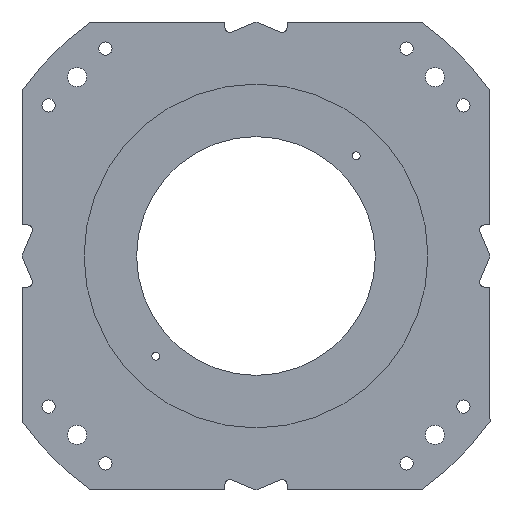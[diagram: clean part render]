
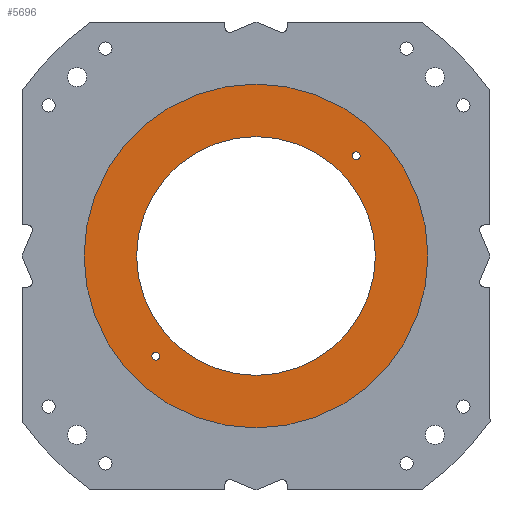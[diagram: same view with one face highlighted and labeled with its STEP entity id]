
A CAD part, front view. The second image highlights one B-rep face of the part: STEP entity #5696.
In plain terms, the highlighted planar face has unit normal (0, -1, 0).
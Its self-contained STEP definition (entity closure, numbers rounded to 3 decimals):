
#34 = EDGE_CURVE ( 'NONE', #6079, #4314, #223, .T. ) ;
#223 = CIRCLE ( 'NONE', #2334, 4. ) ;
#693 = ORIENTED_EDGE ( 'NONE', *, *, #849, .F. ) ;
#743 = CARTESIAN_POINT ( 'NONE',  ( 0., 163., 0. ) ) ;
#849 = EDGE_CURVE ( 'NONE', #4731, #6956, #1227, .T. ) ;
#977 = DIRECTION ( 'NONE',  ( 0., -1., 0. ) ) ;
#1025 = CIRCLE ( 'NONE', #7268, 180. ) ;
#1135 = CIRCLE ( 'NONE', #5511, 125. ) ;
#1191 = DIRECTION ( 'NONE',  ( 0., 1., 0. ) ) ;
#1227 = CIRCLE ( 'NONE', #7729, 180. ) ;
#1338 = DIRECTION ( 'NONE',  ( 0., -1., 0. ) ) ;
#1629 = DIRECTION ( 'NONE',  ( 0., -1., 0. ) ) ;
#1777 = CARTESIAN_POINT ( 'NONE',  ( 0., 163., -125. ) ) ;
#1900 = ORIENTED_EDGE ( 'NONE', *, *, #7073, .F. ) ;
#1974 = ORIENTED_EDGE ( 'NONE', *, *, #3856, .F. ) ;
#2037 = DIRECTION ( 'NONE',  ( 0., 0., 1. ) ) ;
#2156 = CIRCLE ( 'NONE', #5406, 4. ) ;
#2162 = ORIENTED_EDGE ( 'NONE', *, *, #6383, .F. ) ;
#2167 = CARTESIAN_POINT ( 'NONE',  ( 105., 163., 101. ) ) ;
#2334 = AXIS2_PLACEMENT_3D ( 'NONE', #6988, #1629, #6876 ) ;
#2400 = CARTESIAN_POINT ( 'NONE',  ( 0., 163., 0. ) ) ;
#2428 = VERTEX_POINT ( 'NONE', #6703 ) ;
#2434 = CARTESIAN_POINT ( 'NONE',  ( 0., 163., -180. ) ) ;
#2530 = EDGE_LOOP ( 'NONE', ( #5887, #693 ) ) ;
#2587 = CARTESIAN_POINT ( 'NONE',  ( -105., 163., -101. ) ) ;
#2644 = AXIS2_PLACEMENT_3D ( 'NONE', #7741, #5202, #6995 ) ;
#2878 = CARTESIAN_POINT ( 'NONE',  ( 0., 163., 180. ) ) ;
#2932 = FACE_BOUND ( 'NONE', #3500, .T. ) ;
#3143 = EDGE_CURVE ( 'NONE', #3182, #2428, #7264, .T. ) ;
#3182 = VERTEX_POINT ( 'NONE', #1777 ) ;
#3500 = EDGE_LOOP ( 'NONE', ( #1900, #5767 ) ) ;
#3503 = AXIS2_PLACEMENT_3D ( 'NONE', #7437, #5667, #5084 ) ;
#3586 = FACE_OUTER_BOUND ( 'NONE', #2530, .T. ) ;
#3596 = DIRECTION ( 'NONE',  ( 0., 0., 1. ) ) ;
#3725 = CARTESIAN_POINT ( 'NONE',  ( 0., 163., 0. ) ) ;
#3749 = EDGE_CURVE ( 'NONE', #6956, #4731, #1025, .T. ) ;
#3856 = EDGE_CURVE ( 'NONE', #5435, #4011, #2156, .T. ) ;
#4011 = VERTEX_POINT ( 'NONE', #2167 ) ;
#4101 = CARTESIAN_POINT ( 'NONE',  ( -105., 163., -109. ) ) ;
#4143 = PLANE ( 'NONE',  #5331 ) ;
#4314 = VERTEX_POINT ( 'NONE', #2587 ) ;
#4339 = ORIENTED_EDGE ( 'NONE', *, *, #34, .F. ) ;
#4439 = CARTESIAN_POINT ( 'NONE',  ( 105., 163., 105. ) ) ;
#4692 = FACE_BOUND ( 'NONE', #7300, .T. ) ;
#4731 = VERTEX_POINT ( 'NONE', #2434 ) ;
#4781 = ORIENTED_EDGE ( 'NONE', *, *, #6967, .F. ) ;
#4952 = DIRECTION ( 'NONE',  ( 0., 0., -1. ) ) ;
#5084 = DIRECTION ( 'NONE',  ( 0., 0., -1. ) ) ;
#5124 = CARTESIAN_POINT ( 'NONE',  ( -105., 163., -105. ) ) ;
#5202 = DIRECTION ( 'NONE',  ( 0., -1., 0. ) ) ;
#5291 = DIRECTION ( 'NONE',  ( 0., 0., -1. ) ) ;
#5331 = AXIS2_PLACEMENT_3D ( 'NONE', #5833, #6532, #5291 ) ;
#5406 = AXIS2_PLACEMENT_3D ( 'NONE', #4439, #1338, #6789 ) ;
#5435 = VERTEX_POINT ( 'NONE', #6005 ) ;
#5511 = AXIS2_PLACEMENT_3D ( 'NONE', #3725, #7297, #4952 ) ;
#5667 = DIRECTION ( 'NONE',  ( 0., -1., 0. ) ) ;
#5696 = ADVANCED_FACE ( 'NONE', ( #4692, #6417, #2932, #3586 ), #4143, .T. ) ;
#5767 = ORIENTED_EDGE ( 'NONE', *, *, #3143, .F. ) ;
#5833 = CARTESIAN_POINT ( 'NONE',  ( 0., 163., 0. ) ) ;
#5887 = ORIENTED_EDGE ( 'NONE', *, *, #3749, .F. ) ;
#6000 = AXIS2_PLACEMENT_3D ( 'NONE', #5124, #977, #6176 ) ;
#6005 = CARTESIAN_POINT ( 'NONE',  ( 105., 163., 109. ) ) ;
#6011 = CIRCLE ( 'NONE', #2644, 4. ) ;
#6079 = VERTEX_POINT ( 'NONE', #4101 ) ;
#6146 = DIRECTION ( 'NONE',  ( 0., 1., 0. ) ) ;
#6176 = DIRECTION ( 'NONE',  ( 0., 0., -1. ) ) ;
#6383 = EDGE_CURVE ( 'NONE', #4314, #6079, #7713, .T. ) ;
#6417 = FACE_BOUND ( 'NONE', #7348, .T. ) ;
#6532 = DIRECTION ( 'NONE',  ( 0., -1., 0. ) ) ;
#6703 = CARTESIAN_POINT ( 'NONE',  ( 0., 163., 125. ) ) ;
#6789 = DIRECTION ( 'NONE',  ( 0., 0., -1. ) ) ;
#6876 = DIRECTION ( 'NONE',  ( 0., 0., -1. ) ) ;
#6956 = VERTEX_POINT ( 'NONE', #2878 ) ;
#6967 = EDGE_CURVE ( 'NONE', #4011, #5435, #6011, .T. ) ;
#6988 = CARTESIAN_POINT ( 'NONE',  ( -105., 163., -105. ) ) ;
#6995 = DIRECTION ( 'NONE',  ( 0., 0., -1. ) ) ;
#7073 = EDGE_CURVE ( 'NONE', #2428, #3182, #1135, .T. ) ;
#7264 = CIRCLE ( 'NONE', #3503, 125. ) ;
#7268 = AXIS2_PLACEMENT_3D ( 'NONE', #2400, #1191, #3596 ) ;
#7297 = DIRECTION ( 'NONE',  ( 0., -1., 0. ) ) ;
#7300 = EDGE_LOOP ( 'NONE', ( #2162, #4339 ) ) ;
#7348 = EDGE_LOOP ( 'NONE', ( #1974, #4781 ) ) ;
#7437 = CARTESIAN_POINT ( 'NONE',  ( 0., 163., 0. ) ) ;
#7713 = CIRCLE ( 'NONE', #6000, 4. ) ;
#7729 = AXIS2_PLACEMENT_3D ( 'NONE', #743, #6146, #2037 ) ;
#7741 = CARTESIAN_POINT ( 'NONE',  ( 105., 163., 105. ) ) ;
